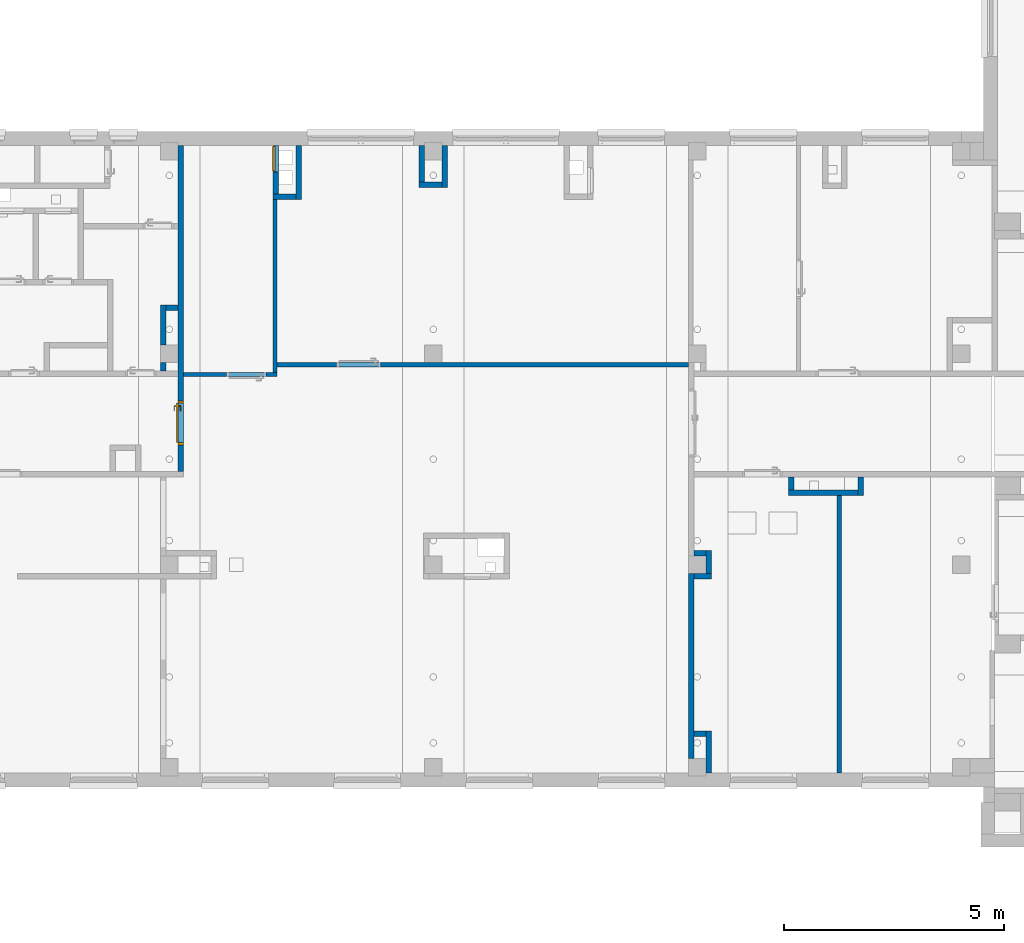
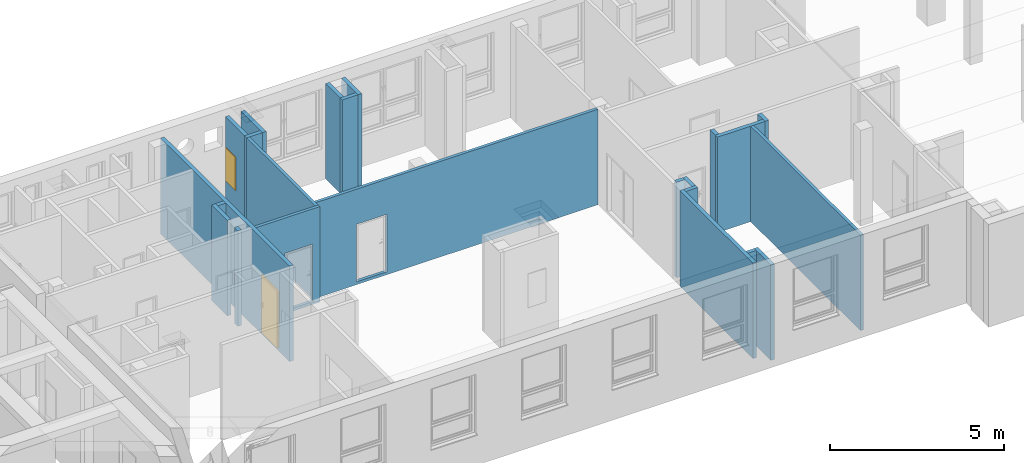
# One storey, part 13 of 50: 23 walls, 1 door, 1 window, 4 openings.
"""IFC4 building model written with IfcOpenShell, lengths in metres."""

from ifc_helpers import new_model, entity, si_unit, converted_unit, derived_unit, frame, frame_2d, origin, origin_with_axes, place, context, subcontext, project, spatial, polyline, rectangle, outline, extrude, closed_shell, open_shell, faceted_brep, surface_model, source, transform, mapped, material, layer, layer_set, layer_usage, type_object, element, fill, save


model = new_model("IFC4")

# Units and contexts
model_context = context("Model", 3, precision=1e-05, world=origin())
body_context = subcontext(model_context, "Body", "Model", "MODEL_VIEW")
ifc_project = project(units=[si_unit("LENGTHUNIT", "METRE"), si_unit("AREAUNIT", "SQUARE_METRE"), si_unit("VOLUMEUNIT", "CUBIC_METRE"), si_unit("MASSUNIT", "GRAM", prefix="KILO"), converted_unit("PLANEANGLEUNIT", "DEGREE", entity("IfcPlaneAngleMeasure", 0.0174532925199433), si_unit("PLANEANGLEUNIT", "RADIAN"), dimensions=[0, 0, 0, 0, 0, 0, 0]), derived_unit("THERMALTRANSMITTANCEUNIT", [(si_unit("POWERUNIT", "WATT"), 1), (si_unit("THERMODYNAMICTEMPERATUREUNIT", "KELVIN"), -1), (si_unit("LENGTHUNIT", "METRE"), -2)]), derived_unit("VOLUMETRICFLOWRATEUNIT", [(si_unit("LENGTHUNIT", "METRE"), 3), (converted_unit("TIMEUNIT", "hour", entity("IfcTimeMeasure", 3600.0), si_unit("TIMEUNIT", "SECOND"), dimensions=[0, 0, 1, 0, 0, 0, 0]), -1), (si_unit("LENGTHUNIT", "METRE"), -1)])], contexts=[model_context])

# Site, building, storey
site_placement = place(None, origin())
site = spatial("IfcSite", under=ifc_project, at=site_placement, Name="3. ASŘ", CompositionType="ELEMENT")
building_placement = place(site_placement, origin())
building = spatial("IfcBuilding", under=site, at=building_placement, Name="Pavilon C", CompositionType="ELEMENT")
storey_placement = place(building_placement, frame((0.0, 0.0, 3.6)))
storey = spatial("IfcBuildingStorey", under=building, at=storey_placement, Name="Půdorys 2.NP", CompositionType="ELEMENT", Elevation=3.6)

# Wall, opening, door
ifc_material_1 = material(Name="ZDIVO Z CDm")
ifc_layer_1 = layer(ifc_material_1, 0.125)
ifc_layer_set_1 = layer_set([ifc_layer_1])
ifc_layer_usage_1 = layer_usage(ifc_layer_set_1, "AXIS2", "POSITIVE", 0.0)
wall_1_placement = place(storey_placement, frame((6.20000000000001, 14.93, -0.1), z_axis=(0.0, 0.0, 1.0), x_axis=(0.0, -1.0, 0.0)))
wall_1 = element("IfcWall", 1, at=wall_1_placement, inside=storey, material=ifc_layer_usage_1, Name="ZDIVO Z CDm", context=body_context, shape_type="SweptSolid", body=[
    extrude(rectangle(XDim=7.405, YDim=0.125, at=frame_2d((3.7025, 0.0625), x_axis=(1.0, 0.0))), origin_with_axes(), (0.0, 0.0, 1.0), 3.35),
])
opening_1_placement = place(wall_1_placement, frame((5.805, 0.0, 0.1), z_axis=(0.0, 1.0, 0.0), x_axis=(0.0, 0.0, 1.0)))
opening_1 = element("IfcOpeningElement", 2, at=opening_1_placement, cuts=wall_1, Name="Dveřní otvor", ObjectType="Opening", context=body_context, shape_type="SweptSolid", body=[
    extrude(outline(polyline([(0.0, 1.0), (2.02, 1.0), (2.02, 0.0), (0.0, 0.0), (0.0, 1.0)])), origin_with_axes(), (0.0, 0.0, 1.0), 0.125),
])
door_type = type_object("IfcDoorType", Name="D101", OperationType="NOTDEFINED", ParameterTakesPrecedence=False, PredefinedType="DOOR")
shared_shape_1 = source(origin_with_axes(), body_context, "Body", "SurfaceModel", [
    surface_model("IfcShellBasedSurfaceModel", [(0.0, 0.125, 2.02), (0.0, 0.125, -7.65404249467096e-18), (0.05, 0.125, -7.65404249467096e-18), (0.05, 0.125, 2.02), (0.0, 0.0, 7.65404249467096e-18), (0.0, 2.41584530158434e-16, 2.02), (0.05, 2.41584530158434e-16, 2.02), (0.05, 0.0, 7.65404249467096e-18)], [closed_shell([[[0, 1, 2, 3]], [[4, 5, 6, 7]], [[1, 0, 5, 4]], [[2, 1, 4, 7]], [[3, 2, 7, 6]], [[0, 3, 6, 5]]], orient=[[False], [False], [False], [False], [False], [False]])]),
    surface_model("IfcShellBasedSurfaceModel", [(0.95, 0.125, 2.02), (0.95, 0.125, -7.65404249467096e-18), (1.0, 0.125, -7.65404249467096e-18), (1.0, 0.125, 2.02), (0.95, 0.0, 7.65404249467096e-18), (0.95, 2.41584530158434e-16, 2.02), (1.0, 2.41584530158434e-16, 2.02), (1.0, 0.0, 7.65404249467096e-18)], [closed_shell([[[0, 1, 2, 3]], [[4, 5, 6, 7]], [[1, 0, 5, 4]], [[2, 1, 4, 7]], [[3, 2, 7, 6]], [[0, 3, 6, 5]]], orient=[[False], [False], [False], [False], [False], [False]])]),
    surface_model("IfcShellBasedSurfaceModel", [(0.05, 0.125, 2.02), (0.05, 0.125, 1.97), (0.95, 0.125, 1.97), (0.95, 0.125, 2.02), (0.05, 2.41584530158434e-16, 1.97), (0.05, 2.41584530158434e-16, 2.02), (0.95, 2.41584530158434e-16, 2.02), (0.95, 2.41584530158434e-16, 1.97)], [closed_shell([[[0, 1, 2, 3]], [[4, 5, 6, 7]], [[1, 0, 5, 4]], [[2, 1, 4, 7]], [[3, 2, 7, 6]], [[0, 3, 6, 5]]], orient=[[False], [False], [False], [False], [False], [False]])]),
    surface_model("IfcShellBasedSurfaceModel", [(0.05, 0.165, 1.97), (0.05, 0.165, -1.25526296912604e-17), (0.95, 0.165, -1.25526296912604e-17), (0.95, 0.165, 1.97), (0.05, 0.125, -7.65404249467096e-18), (0.05, 0.125, 1.97), (0.95, 0.125, 1.97), (0.95, 0.125, -7.65404249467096e-18)], [closed_shell([[[0, 1, 2, 3]], [[4, 5, 6, 7]], [[1, 0, 5, 4]], [[2, 1, 4, 7]], [[3, 2, 7, 6]], [[0, 3, 6, 5]]], orient=[[False], [False], [False], [False], [False], [False]])]),
    surface_model("IfcShellBasedSurfaceModel", [(0.86, 0.125, 1.125), (0.86, 0.125, 0.91), (0.91, 0.125, 0.91), (0.91, 0.125, 1.125), (0.86, 0.115, 0.91), (0.86, 0.115, 1.125), (0.91, 0.115, 1.125), (0.91, 0.115, 0.91)], [closed_shell([[[0, 1, 2, 3]], [[4, 5, 6, 7]], [[1, 0, 5, 4]], [[2, 1, 4, 7]], [[3, 2, 7, 6]], [[0, 3, 6, 5]]], orient=[[False], [False], [False], [False], [False], [False]])]),
    surface_model("IfcShellBasedSurfaceModel", [(0.885, 0.115, 1.06), (0.88, 0.115, 1.05866025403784), (0.876339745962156, 0.115, 1.055), (0.875, 0.115, 1.05), (0.876339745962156, 0.115, 1.045), (0.88, 0.115, 1.04133974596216), (0.885, 0.115, 1.04), (0.89, 0.115, 1.04133974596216), (0.893660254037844, 0.115, 1.045), (0.895, 0.115, 1.05), (0.893660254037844, 0.115, 1.055), (0.89, 0.115, 1.05866025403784), (0.89, 0.0700000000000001, 1.05866025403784), (0.885, 0.0750000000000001, 1.06), (0.893660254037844, 0.0663397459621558, 1.055), (0.895, 0.0650000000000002, 1.05), (0.893660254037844, 0.0663397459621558, 1.045), (0.89, 0.0700000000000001, 1.04133974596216), (0.885, 0.0750000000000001, 1.04), (0.88, 0.0800000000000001, 1.04133974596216), (0.876339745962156, 0.0836602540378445, 1.045), (0.875, 0.0850000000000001, 1.05), (0.876339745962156, 0.0836602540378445, 1.055), (0.88, 0.0800000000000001, 1.05866025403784), (0.77, 0.0700000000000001, 1.05866025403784), (0.77, 0.0750000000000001, 1.06), (0.77, 0.0663397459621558, 1.055), (0.77, 0.0650000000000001, 1.05), (0.77, 0.0663397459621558, 1.045), (0.77, 0.0700000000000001, 1.04133974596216), (0.77, 0.0750000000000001, 1.04), (0.77, 0.0800000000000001, 1.04133974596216), (0.77, 0.0836602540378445, 1.045), (0.77, 0.0850000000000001, 1.05), (0.77, 0.0836602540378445, 1.055), (0.77, 0.0800000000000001, 1.05866025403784)], [open_shell([[[0, 1, 2, 3, 4, 5, 6, 7, 8, 9, 10, 11]], [[0, 11, 12, 13]], [[11, 10, 14, 12]], [[10, 9, 15, 14]], [[9, 8, 16, 15]], [[8, 7, 17, 16]], [[7, 6, 18, 17]], [[6, 5, 19, 18]], [[5, 4, 20, 19]], [[4, 3, 21, 20]], [[3, 2, 22, 21]], [[2, 1, 23, 22]], [[1, 0, 13, 23]], [[13, 12, 24, 25]], [[12, 14, 26, 24]], [[14, 15, 27, 26]], [[15, 16, 28, 27]], [[16, 17, 29, 28]], [[17, 18, 30, 29]], [[18, 19, 31, 30]], [[19, 20, 32, 31]], [[20, 21, 33, 32]], [[21, 22, 34, 33]], [[22, 23, 35, 34]], [[23, 13, 25, 35]]], orient=[[False], [False], [False], [False], [False], [False], [False], [False], [False], [False], [False], [False], [False], [False], [False], [False], [False], [False], [False], [False], [False], [False], [False], [False], [False]])]),
    surface_model("IfcShellBasedSurfaceModel", [(0.86, 0.165, 1.125), (0.91, 0.165, 1.125), (0.91, 0.165, 0.91), (0.86, 0.165, 0.91), (0.86, 0.175, 0.91), (0.91, 0.175, 0.91), (0.91, 0.175, 1.125), (0.86, 0.175, 1.125)], [closed_shell([[[0, 1, 2, 3]], [[4, 5, 6, 7]], [[3, 4, 7, 0]], [[2, 5, 4, 3]], [[1, 6, 5, 2]], [[0, 7, 6, 1]]], orient=[[False], [False], [False], [False], [False], [False]])]),
    surface_model("IfcShellBasedSurfaceModel", [(0.885, 0.175, 1.06), (0.89, 0.175, 1.05866025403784), (0.893660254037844, 0.175, 1.055), (0.895, 0.175, 1.05), (0.893660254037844, 0.175, 1.045), (0.89, 0.175, 1.04133974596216), (0.885, 0.175, 1.04), (0.88, 0.175, 1.04133974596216), (0.876339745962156, 0.175, 1.045), (0.875, 0.175, 1.05), (0.876339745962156, 0.175, 1.055), (0.88, 0.175, 1.05866025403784), (0.885, 0.215, 1.06), (0.89, 0.22, 1.05866025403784), (0.893660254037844, 0.223660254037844, 1.055), (0.895, 0.225, 1.05), (0.893660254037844, 0.223660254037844, 1.045), (0.89, 0.22, 1.04133974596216), (0.885, 0.215, 1.04), (0.88, 0.21, 1.04133974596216), (0.876339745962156, 0.206339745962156, 1.045), (0.875, 0.205, 1.05), (0.876339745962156, 0.206339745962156, 1.055), (0.88, 0.21, 1.05866025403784), (0.77, 0.215, 1.06), (0.77, 0.22, 1.05866025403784), (0.77, 0.223660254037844, 1.055), (0.77, 0.225, 1.05), (0.77, 0.223660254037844, 1.045), (0.77, 0.22, 1.04133974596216), (0.77, 0.215, 1.04), (0.77, 0.21, 1.04133974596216), (0.77, 0.206339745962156, 1.045), (0.77, 0.205, 1.05), (0.77, 0.206339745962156, 1.055), (0.77, 0.21, 1.05866025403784)], [open_shell([[[0, 1, 2, 3, 4, 5, 6, 7, 8, 9, 10, 11]], [[0, 12, 13, 1]], [[1, 13, 14, 2]], [[2, 14, 15, 3]], [[3, 15, 16, 4]], [[4, 16, 17, 5]], [[5, 17, 18, 6]], [[6, 18, 19, 7]], [[7, 19, 20, 8]], [[8, 20, 21, 9]], [[9, 21, 22, 10]], [[10, 22, 23, 11]], [[11, 23, 12, 0]], [[12, 24, 25, 13]], [[13, 25, 26, 14]], [[14, 26, 27, 15]], [[15, 27, 28, 16]], [[16, 28, 29, 17]], [[17, 29, 30, 18]], [[18, 30, 31, 19]], [[19, 31, 32, 20]], [[20, 32, 33, 21]], [[21, 33, 34, 22]], [[22, 34, 35, 23]], [[23, 35, 24, 12]]], orient=[[False], [False], [False], [False], [False], [False], [False], [False], [False], [False], [False], [False], [False], [False], [False], [False], [False], [False], [False], [False], [False], [False], [False], [False], [False]])]),
])
door_placement = place(opening_1_placement, frame((0.0, 1.0, 0.124999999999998), z_axis=(1.0, 0.0, 0.0), x_axis=(0.0, -1.0, 1.22464679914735e-16)))
door = element("IfcDoor", 3, at=door_placement, inside=storey, type_object=door_type, Name="D101", OverallHeight=2.02, OverallWidth=1.0, context=body_context, shape_type="MappedRepresentation", body=[
    mapped(shared_shape_1, transform((0.0, 0.0, 0.0), x_axis=(1.0, 0.0, 0.0), y_axis=(0.0, 1.0, 0.0), z_axis=(0.0, 0.0, 1.0), scale=1.0)),
])
fill(opening_1, door)

# Walls
ifc_material_2 = material(Name="ZDIVO Z CDm")
ifc_layer_2 = layer(ifc_material_2, 0.125)
ifc_layer_set_2 = layer_set([ifc_layer_2])
ifc_layer_usage_2 = layer_usage(ifc_layer_set_2, "AXIS2", "POSITIVE", 0.0)
wall_2_placement = place(storey_placement, frame((5.80000000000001, 10.0, -0.1), z_axis=(0.0, 0.0, 1.0), x_axis=(0.0, -1.0, 0.0)))
element("IfcWall", 4, at=wall_2_placement, inside=storey, material=ifc_layer_usage_2, Name="ZDIVO Z CDm", context=body_context, shape_type="SweptSolid", body=[
    extrude(rectangle(XDim=0.199999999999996, YDim=0.125, at=frame_2d((0.0999999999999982, 0.0625), x_axis=(1.0, 0.0))), origin_with_axes(), (0.0, 0.0, 1.0), 3.35),
])
ifc_material_3 = material(Name="ZDIVO Z CDm")
ifc_layer_3 = layer(ifc_material_3, 0.125)
ifc_layer_set_3 = layer_set([ifc_layer_3])
ifc_layer_usage_3 = layer_usage(ifc_layer_set_3, "AXIS2", "POSITIVE", 0.0)
wall_3_placement = place(storey_placement, frame((5.80000000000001, 11.3, -0.1), z_axis=(0.0, 0.0, 1.0), x_axis=(0.0, -1.0, 0.0)))
element("IfcWall", 5, at=wall_3_placement, inside=storey, material=ifc_layer_usage_3, Name="ZDIVO Z CDm", context=body_context, shape_type="SweptSolid", body=[
    extrude(rectangle(XDim=0.900000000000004, YDim=0.125, at=frame_2d((0.450000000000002, 0.0625), x_axis=(1.0, 0.0))), origin_with_axes(), (0.0, 0.0, 1.0), 3.35),
])
ifc_material_4 = material(Name="ZDIVO Z CDm")
ifc_layer_4 = layer(ifc_material_4, 0.125)
ifc_layer_set_4 = layer_set([ifc_layer_4])
ifc_layer_usage_4 = layer_usage(ifc_layer_set_4, "AXIS2", "POSITIVE", 0.0)
wall_4_placement = place(storey_placement, frame((6.20000000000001, 11.3, -0.1), z_axis=(0.0, 0.0, 1.0), x_axis=(-1.0, 0.0, 0.0)))
element("IfcWall", 6, at=wall_4_placement, inside=storey, material=ifc_layer_usage_4, Name="ZDIVO Z CDm", context=body_context, shape_type="SweptSolid", body=[
    extrude(rectangle(XDim=0.275, YDim=0.125, at=frame_2d((0.1375, 0.0625), x_axis=(1.0, 0.0))), origin_with_axes(), (0.0, 0.0, 1.0), 3.35),
])
ifc_material_5 = material(Name="ZDIVO Z CDm")
ifc_layer_5 = layer(ifc_material_5, 0.125)
ifc_layer_set_5 = layer_set([ifc_layer_5])
ifc_layer_usage_5 = layer_usage(ifc_layer_set_5, "AXIS2", "POSITIVE", 0.0)
wall_5_placement = place(storey_placement, frame((8.87500000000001, 14.93, -0.1), z_axis=(0.0, 0.0, 1.0), x_axis=(0.0, -1.0, 0.0)))
element("IfcWall", 7, at=wall_5_placement, inside=storey, material=ifc_layer_usage_5, Name="ZDIVO Z CDm", context=body_context, shape_type="SweptSolid", body=[
    extrude(rectangle(XDim=1.225, YDim=0.125, at=frame_2d((0.6125, 0.0625), x_axis=(1.0, 0.0))), origin_with_axes(), (0.0, 0.0, 1.0), 3.35),
])
ifc_material_6 = material(Name="ZDIVO Z CDm")
ifc_layer_6 = layer(ifc_material_6, 0.125)
ifc_layer_set_6 = layer_set([ifc_layer_6])
ifc_layer_usage_6 = layer_usage(ifc_layer_set_6, "AXIS2", "POSITIVE", 0.0)
wall_6_placement = place(storey_placement, frame((8.87500000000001, 13.83, -0.1), z_axis=(0.0, 0.0, 1.0), x_axis=(-1.0, 0.0, 0.0)))
element("IfcWall", 8, at=wall_6_placement, inside=storey, material=ifc_layer_usage_6, Name="ZDIVO Z CDm", context=body_context, shape_type="SweptSolid", body=[
    extrude(rectangle(XDim=0.525, YDim=0.125, at=frame_2d((0.2625, 0.0625), x_axis=(1.0, 0.0))), origin_with_axes(), (0.0, 0.0, 1.0), 3.35),
])

# Wall, opening, window
ifc_material_7 = material(Name="ZDIVO Z CDm")
ifc_layer_7 = layer(ifc_material_7, 0.125)
ifc_layer_set_7 = layer_set([ifc_layer_7])
ifc_layer_usage_7 = layer_usage(ifc_layer_set_7, "AXIS2", "POSITIVE", 0.0)
wall_7_placement = place(storey_placement, frame((8.47500000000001, 13.83, -0.1), z_axis=(0.0, 0.0, 1.0), x_axis=(0.0, 1.0, 0.0)))
wall_7 = element("IfcWall", 9, at=wall_7_placement, inside=storey, material=ifc_layer_usage_7, Name="ZDIVO Z CDm", context=body_context, shape_type="SweptSolid", body=[
    extrude(rectangle(XDim=1.1, YDim=0.125, at=frame_2d((0.55, 0.0625), x_axis=(1.0, 0.0))), origin_with_axes(), (0.0, 0.0, 1.0), 3.35),
])
opening_2_placement = place(wall_7_placement, frame((1.1, 0.125, 1.1), z_axis=(0.0, -1.0, 0.0), x_axis=(0.0, 0.0, 1.0)))
opening_2 = element("IfcOpeningElement", 10, at=opening_2_placement, cuts=wall_7, Name="Okenní otvor", ObjectType="Opening", context=body_context, shape_type="SweptSolid", body=[
    extrude(outline(polyline([(0.0, 0.600000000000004), (1.2, 0.600000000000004), (1.2, 0.0), (0.0, 0.0), (0.0, 0.600000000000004)])), origin_with_axes(), (0.0, 0.0, 1.0), 0.125),
])
shared_shape_2 = source(origin_with_axes(), body_context, "Body", "Brep", [
    faceted_brep([(0.0, 0.0600000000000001, 1.2), (0.0, 0.06, 4.91096680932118e-19), (0.02, 0.06, 4.91096680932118e-19), (0.02, 0.0600000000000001, 1.2), (0.0, 0.01, 6.61433067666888e-18), (0.0, 0.0100000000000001, 1.2), (0.02, 0.0100000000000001, 1.2), (0.02, 0.01, 6.61433067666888e-18)], [[[0, 1, 2, 3]], [[4, 5, 6, 7]], [[1, 0, 5, 4]], [[2, 1, 4, 7]], [[3, 2, 7, 6]], [[0, 3, 6, 5]]], orient=[[False], [False], [False], [False], [False], [False]]),
    faceted_brep([(0.58, 0.0600000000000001, 1.2), (0.58, 0.06, 4.91096680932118e-19), (0.6, 0.06, 4.91096680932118e-19), (0.6, 0.0600000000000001, 1.2), (0.58, 0.01, 6.61433067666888e-18), (0.58, 0.0100000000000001, 1.2), (0.6, 0.0100000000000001, 1.2), (0.6, 0.01, 6.61433067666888e-18)], [[[0, 1, 2, 3]], [[4, 5, 6, 7]], [[1, 0, 5, 4]], [[2, 1, 4, 7]], [[3, 2, 7, 6]], [[0, 3, 6, 5]]], orient=[[False], [False], [False], [False], [False], [False]]),
    faceted_brep([(0.02, 0.06, 0.02), (0.02, 0.06, 4.91096680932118e-19), (0.58, 0.06, 4.91096680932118e-19), (0.58, 0.06, 0.02), (0.02, 0.01, 6.61433067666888e-18), (0.02, 0.01, 0.02), (0.58, 0.01, 0.02), (0.58, 0.01, 6.61433067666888e-18)], [[[0, 1, 2, 3]], [[4, 5, 6, 7]], [[1, 0, 5, 4]], [[2, 1, 4, 7]], [[3, 2, 7, 6]], [[0, 3, 6, 5]]], orient=[[False], [False], [False], [False], [False], [False]]),
    faceted_brep([(0.02, 0.0600000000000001, 1.2), (0.02, 0.0600000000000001, 1.18), (0.58, 0.0600000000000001, 1.18), (0.58, 0.0600000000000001, 1.2), (0.02, 0.0100000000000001, 1.18), (0.02, 0.0100000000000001, 1.2), (0.58, 0.0100000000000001, 1.2), (0.58, 0.0100000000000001, 1.18)], [[[0, 1, 2, 3]], [[4, 5, 6, 7]], [[1, 0, 5, 4]], [[2, 1, 4, 7]], [[3, 2, 7, 6]], [[0, 3, 6, 5]]], orient=[[False], [False], [False], [False], [False], [False]]),
    faceted_brep([(0.02, 0.0100000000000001, 1.18), (0.02, 0.01, 0.02), (0.58, 0.01, 0.02), (0.58, 0.0100000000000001, 1.18), (0.02, 0.0, 0.02), (0.02, 1.4210854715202e-16, 1.18), (0.58, 1.4210854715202e-16, 1.18), (0.58, 0.0, 0.02)], [[[0, 1, 2, 3]], [[4, 5, 6, 7]], [[1, 0, 5, 4]], [[2, 1, 4, 7]], [[3, 2, 7, 6]], [[0, 3, 6, 5]]], orient=[[False], [False], [False], [False], [False], [False]]),
])
window_placement = place(opening_2_placement, frame((0.0, 3.63797880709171e-15, -0.0100000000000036), z_axis=(1.0, 0.0, 0.0), x_axis=(0.0, 1.0, 1.22464679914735e-16)))
window = element("IfcWindow", 11, at=window_placement, inside=storey, Name="O01", OverallHeight=1.2, OverallWidth=0.6, PartitioningType="USERDEFINED", PredefinedType="WINDOW", context=body_context, shape_type="MappedRepresentation", body=[
    mapped(shared_shape_2, transform((0.0, 0.0, 0.0), x_axis=(1.0, 0.0, 0.0), y_axis=(0.0, 1.0, 0.0), z_axis=(0.0, 0.0, 1.0), scale=1.0)),
])
fill(opening_2, window)

# Walls
ifc_material_8 = material(Name="ZDIVO Z CDm")
ifc_layer_8 = layer(ifc_material_8, 0.125)
ifc_layer_set_8 = layer_set([ifc_layer_8])
ifc_layer_usage_8 = layer_usage(ifc_layer_set_8, "AXIS2", "POSITIVE", 0.0)
wall_8_placement = place(storey_placement, frame((12.2, 14.93, -0.1), z_axis=(0.0, 0.0, 1.0), x_axis=(0.0, -1.0, 0.0)))
element("IfcWall", 12, at=wall_8_placement, inside=storey, material=ifc_layer_usage_8, Name="ZDIVO Z CDm", context=body_context, shape_type="SweptSolid", body=[
    extrude(rectangle(XDim=0.955000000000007, YDim=0.125, at=frame_2d((0.477500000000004, 0.0625), x_axis=(1.0, 0.0))), origin_with_axes(), (0.0, 0.0, 1.0), 3.35),
])
ifc_material_9 = material(Name="ZDIVO Z CDm")
ifc_layer_9 = layer(ifc_material_9, 0.125)
ifc_layer_set_9 = layer_set([ifc_layer_9])
ifc_layer_usage_9 = layer_usage(ifc_layer_set_9, "AXIS2", "POSITIVE", 0.0)
wall_9_placement = place(storey_placement, frame((12.2, 14.1, -0.1), z_axis=(0.0, 0.0, 1.0), x_axis=(-1.0, 0.0, 0.0)))
element("IfcWall", 13, at=wall_9_placement, inside=storey, material=ifc_layer_usage_9, Name="ZDIVO Z CDm", context=body_context, shape_type="SweptSolid", body=[
    extrude(rectangle(XDim=0.525, YDim=0.125, at=frame_2d((0.2625, 0.0625), x_axis=(1.0, 0.0))), origin_with_axes(), (0.0, 0.0, 1.0), 3.35),
])
ifc_material_10 = material(Name="ZDIVO Z CDm")
ifc_layer_10 = layer(ifc_material_10, 0.125)
ifc_layer_set_10 = layer_set([ifc_layer_10])
ifc_layer_usage_10 = layer_usage(ifc_layer_set_10, "AXIS2", "POSITIVE", 0.0)
wall_10_placement = place(storey_placement, frame((11.8, 14.1, -0.1), z_axis=(0.0, 0.0, 1.0), x_axis=(0.0, 1.0, 0.0)))
element("IfcWall", 14, at=wall_10_placement, inside=storey, material=ifc_layer_usage_10, Name="ZDIVO Z CDm", context=body_context, shape_type="SweptSolid", body=[
    extrude(rectangle(XDim=0.830000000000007, YDim=0.125, at=frame_2d((0.415000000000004, 0.0625), x_axis=(1.0, 0.0))), origin_with_axes(), (0.0, 0.0, 1.0), 3.35),
])
ifc_material_11 = material(Name="ZDIVO Z CDm")
ifc_layer_11 = layer(ifc_material_11, 0.125)
ifc_layer_set_11 = layer_set([ifc_layer_11])
ifc_layer_usage_11 = layer_usage(ifc_layer_set_11, "AXIS2", "POSITIVE", 0.0)
wall_11_placement = place(storey_placement, frame((17.8, 5.2, -0.1), z_axis=(0.0, 0.0, 1.0), x_axis=(0.0, -1.0, 0.0)))
element("IfcWall", 15, at=wall_11_placement, inside=storey, material=ifc_layer_usage_11, Name="ZDIVO Z CDm", context=body_context, shape_type="SweptSolid", body=[
    extrude(rectangle(XDim=4.2, YDim=0.125, at=frame_2d((2.1, 0.0625), x_axis=(1.0, 0.0))), origin_with_axes(), (0.0, 0.0, 1.0), 3.35),
])
ifc_material_12 = material(Name="ZDIVO Z CDm")
ifc_layer_12 = layer(ifc_material_12, 0.125)
ifc_layer_set_12 = layer_set([ifc_layer_12])
ifc_layer_usage_12 = layer_usage(ifc_layer_set_12, "AXIS2", "POSITIVE", 0.0)
wall_12_placement = place(storey_placement, frame((18.2, 1.625, -0.1), z_axis=(0.0, 0.0, 1.0), x_axis=(0.0, -1.0, 0.0)))
element("IfcWall", 16, at=wall_12_placement, inside=storey, material=ifc_layer_usage_12, Name="ZDIVO Z CDm", context=body_context, shape_type="SweptSolid", body=[
    extrude(rectangle(XDim=0.954999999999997, YDim=0.125, at=frame_2d((0.477499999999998, 0.0625), x_axis=(1.0, 0.0))), origin_with_axes(), (0.0, 0.0, 1.0), 3.35),
])
ifc_material_13 = material(Name="ZDIVO Z CDm")
ifc_layer_13 = layer(ifc_material_13, 0.125)
ifc_layer_set_13 = layer_set([ifc_layer_13])
ifc_layer_usage_13 = layer_usage(ifc_layer_set_13, "AXIS2", "POSITIVE", 0.0)
wall_13_placement = place(storey_placement, frame((17.925, 1.5, -0.1)))
element("IfcWall", 17, at=wall_13_placement, inside=storey, material=ifc_layer_usage_13, Name="ZDIVO Z CDm", context=body_context, shape_type="SweptSolid", body=[
    extrude(rectangle(XDim=0.275, YDim=0.125, at=frame_2d((0.1375, 0.0625), x_axis=(1.0, 0.0))), origin_with_axes(), (0.0, 0.0, 1.0), 3.35),
])
ifc_material_14 = material(Name="ZDIVO Z CDm")
ifc_layer_14 = layer(ifc_material_14, 0.125)
ifc_layer_set_14 = layer_set([ifc_layer_14])
ifc_layer_usage_14 = layer_usage(ifc_layer_set_14, "AXIS2", "POSITIVE", 0.0)
wall_14_placement = place(storey_placement, frame((18.325, 5.2, -0.1), z_axis=(0.0, 0.0, 1.0), x_axis=(-1.0, 0.0, 0.0)))
element("IfcWall", 18, at=wall_14_placement, inside=storey, material=ifc_layer_usage_14, Name="ZDIVO Z CDm", context=body_context, shape_type="SweptSolid", body=[
    extrude(rectangle(XDim=0.4, YDim=0.125, at=frame_2d((0.2, 0.0625), x_axis=(1.0, 0.0))), origin_with_axes(), (0.0, 0.0, 1.0), 3.35),
])
ifc_material_15 = material(Name="ZDIVO Z CDm")
ifc_layer_15 = layer(ifc_material_15, 0.125)
ifc_layer_set_15 = layer_set([ifc_layer_15])
ifc_layer_usage_15 = layer_usage(ifc_layer_set_15, "AXIS2", "POSITIVE", 0.0)
wall_15_placement = place(storey_placement, frame((18.2, 5.725, -0.1), z_axis=(0.0, 0.0, 1.0), x_axis=(0.0, -1.0, 0.0)))
element("IfcWall", 19, at=wall_15_placement, inside=storey, material=ifc_layer_usage_15, Name="ZDIVO Z CDm", context=body_context, shape_type="SweptSolid", body=[
    extrude(rectangle(XDim=0.525000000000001, YDim=0.125, at=frame_2d((0.2625, 0.0625), x_axis=(1.0, 0.0))), origin_with_axes(), (0.0, 0.0, 1.0), 3.35),
])
ifc_material_16 = material(Name="ZDIVO Z CDm")
ifc_layer_16 = layer(ifc_material_16, 0.125)
ifc_layer_set_16 = layer_set([ifc_layer_16])
ifc_layer_usage_16 = layer_usage(ifc_layer_set_16, "AXIS2", "POSITIVE", 0.0)
wall_16_placement = place(storey_placement, frame((17.925, 5.6, -0.1)))
element("IfcWall", 20, at=wall_16_placement, inside=storey, material=ifc_layer_usage_16, Name="ZDIVO Z CDm", context=body_context, shape_type="SweptSolid", body=[
    extrude(rectangle(XDim=0.275, YDim=0.125, at=frame_2d((0.1375, 0.0625), x_axis=(1.0, 0.0))), origin_with_axes(), (0.0, 0.0, 1.0), 3.35),
])
ifc_material_17 = material(Name="PÓROBETONOVÉ ZDIVO")
ifc_layer_17 = layer(ifc_material_17, 0.1)
ifc_layer_set_17 = layer_set([ifc_layer_17])
ifc_layer_usage_17 = layer_usage(ifc_layer_set_17, "AXIS2", "POSITIVE", 0.0)
wall_17_placement = place(storey_placement, frame((21.175, 6.975, -0.1), z_axis=(0.0, 0.0, 1.0), x_axis=(0.0, -1.0, 0.0)))
element("IfcWall", 21, at=wall_17_placement, inside=storey, material=ifc_layer_usage_17, Name="PÓROBETONOVÉ ZDIVO", context=body_context, shape_type="SweptSolid", body=[
    extrude(rectangle(XDim=6.305, YDim=0.1, at=frame_2d((3.1525, 0.05), x_axis=(1.0, 0.0))), origin_with_axes(), (0.0, 0.0, 1.0), 3.35),
])
ifc_material_18 = material(Name="ZDIVO Z CDm")
ifc_layer_18 = layer(ifc_material_18, 0.125)
ifc_layer_set_18 = layer_set([ifc_layer_18])
ifc_layer_usage_18 = layer_usage(ifc_layer_set_18, "AXIS2", "POSITIVE", 0.0)
wall_18_placement = place(storey_placement, frame((21.65, 7.4, -0.1), z_axis=(0.0, 0.0, 1.0), x_axis=(0.0, -1.0, 0.0)))
element("IfcWall", 22, at=wall_18_placement, inside=storey, material=ifc_layer_usage_18, Name="ZDIVO Z CDm", context=body_context, shape_type="SweptSolid", body=[
    extrude(rectangle(XDim=0.425, YDim=0.125, at=frame_2d((0.2125, 0.0625), x_axis=(1.0, 0.0))), origin_with_axes(), (0.0, 0.0, 1.0), 3.35),
])
ifc_material_19 = material(Name="ZDIVO Z CDm")
ifc_layer_19 = layer(ifc_material_19, 0.125)
ifc_layer_set_19 = layer_set([ifc_layer_19])
ifc_layer_usage_19 = layer_usage(ifc_layer_set_19, "AXIS2", "POSITIVE", 0.0)
wall_19_placement = place(storey_placement, frame((20.2, 7.10000000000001, -0.1), z_axis=(0.0, 0.0, 1.0), x_axis=(0.0, 1.0, 0.0)))
element("IfcWall", 23, at=wall_19_placement, inside=storey, material=ifc_layer_usage_19, Name="ZDIVO Z CDm", context=body_context, shape_type="SweptSolid", body=[
    extrude(rectangle(XDim=0.299999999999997, YDim=0.125, at=frame_2d((0.149999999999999, 0.0625), x_axis=(1.0, 0.0))), origin_with_axes(), (0.0, 0.0, 1.0), 3.35),
])
ifc_material_20 = material(Name="ZDIVO Z CDm")
ifc_layer_20 = layer(ifc_material_20, 0.125)
ifc_layer_set_20 = layer_set([ifc_layer_20])
ifc_layer_usage_20 = layer_usage(ifc_layer_set_20, "AXIS2", "POSITIVE", 0.0)
wall_20_placement = place(storey_placement, frame((21.65, 7.10000000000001, -0.1), z_axis=(0.0, 0.0, 1.0), x_axis=(-1.0, 0.0, 0.0)))
element("IfcWall", 24, at=wall_20_placement, inside=storey, material=ifc_layer_usage_20, Name="ZDIVO Z CDm", context=body_context, shape_type="SweptSolid", body=[
    extrude(rectangle(XDim=1.575, YDim=0.125, at=frame_2d((0.787500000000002, 0.0625), x_axis=(1.0, 0.0))), origin_with_axes(), (0.0, 0.0, 1.0), 3.35),
])

# Wall, opening
ifc_material_21 = material(Name="PÓROBETONOVÉ ZDIVO")
ifc_layer_21 = layer(ifc_material_21, 0.1)
ifc_layer_set_21 = layer_set([ifc_layer_21])
ifc_layer_usage_21 = layer_usage(ifc_layer_set_21, "AXIS2", "POSITIVE", 0.0)
wall_21_placement = place(storey_placement, frame((17.8, 10.0, -0.1), z_axis=(0.0, 0.0, 1.0), x_axis=(-1.0, 0.0, 0.0)))
wall_21 = element("IfcWall", 25, at=wall_21_placement, inside=storey, material=ifc_layer_usage_21, Name="PÓROBETONOVÉ ZDIVO", context=body_context, shape_type="SweptSolid", body=[
    extrude(rectangle(XDim=9.35000000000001, YDim=0.1, at=frame_2d((4.675, 0.05), x_axis=(1.0, 0.0))), origin_with_axes(), (0.0, 0.0, 1.0), 3.35),
])
opening_3_placement = place(wall_21_placement, frame((8.00000000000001, 0.1, 0.1), z_axis=(0.0, -1.0, 0.0), x_axis=(0.0, 0.0, 1.0)))
element("IfcOpeningElement", 26, at=opening_3_placement, cuts=wall_21, Name="Dveřní otvor", ObjectType="Opening", context=body_context, shape_type="SweptSolid", body=[
    extrude(outline(polyline([(0.0, 1.0), (2.02, 1.0), (2.02, 0.0), (0.0, 0.0), (0.0, 1.0)])), origin_with_axes(), (0.0, 0.0, 1.0), 0.1),
])

# Wall
ifc_material_22 = material(Name="PÓROBETONOVÉ ZDIVO")
ifc_layer_22 = layer(ifc_material_22, 0.1)
ifc_layer_set_22 = layer_set([ifc_layer_22])
ifc_layer_usage_22 = layer_usage(ifc_layer_set_22, "AXIS2", "POSITIVE", 0.0)
wall_22_placement = place(storey_placement, frame((8.35000000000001, 13.705, -0.1), z_axis=(0.0, 0.0, 1.0), x_axis=(0.0, -1.0, 0.0)))
element("IfcWall", 27, at=wall_22_placement, inside=storey, material=ifc_layer_usage_22, Name="PÓROBETONOVÉ ZDIVO", context=body_context, shape_type="SweptSolid", body=[
    extrude(rectangle(XDim=3.93, YDim=0.1, at=frame_2d((1.965, 0.05), x_axis=(1.0, 0.0))), origin_with_axes(), (0.0, 0.0, 1.0), 3.35),
])

# Wall, opening
ifc_material_23 = material(Name="PÓROBETONOVÉ ZDIVO")
ifc_layer_23 = layer(ifc_material_23, 0.1)
ifc_layer_set_23 = layer_set([ifc_layer_23])
ifc_layer_usage_23 = layer_usage(ifc_layer_set_23, "AXIS2", "POSITIVE", 0.0)
wall_23_placement = place(storey_placement, frame((6.32500000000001, 9.675, -0.1)))
wall_23 = element("IfcWall", 28, at=wall_23_placement, inside=storey, material=ifc_layer_usage_23, Name="PÓROBETONOVÉ ZDIVO", context=body_context, shape_type="SweptSolid", body=[
    extrude(rectangle(XDim=2.125, YDim=0.1, at=frame_2d((1.0625, 0.05), x_axis=(1.0, 0.0))), origin_with_axes(), (0.0, 0.0, 1.0), 3.35),
])
opening_4_placement = place(wall_23_placement, frame((1.875, 0.1, 0.1), z_axis=(0.0, -1.0, 0.0), x_axis=(0.0, 0.0, 1.0)))
element("IfcOpeningElement", 29, at=opening_4_placement, cuts=wall_23, Name="Dveřní otvor", ObjectType="Opening", context=body_context, shape_type="SweptSolid", body=[
    extrude(outline(polyline([(0.0, 0.899999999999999), (2.02, 0.899999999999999), (2.02, 0.0), (0.0, 0.0), (0.0, 0.899999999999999)])), origin_with_axes(), (0.0, 0.0, 1.0), 0.1),
])

save(model, "model.ifc")
